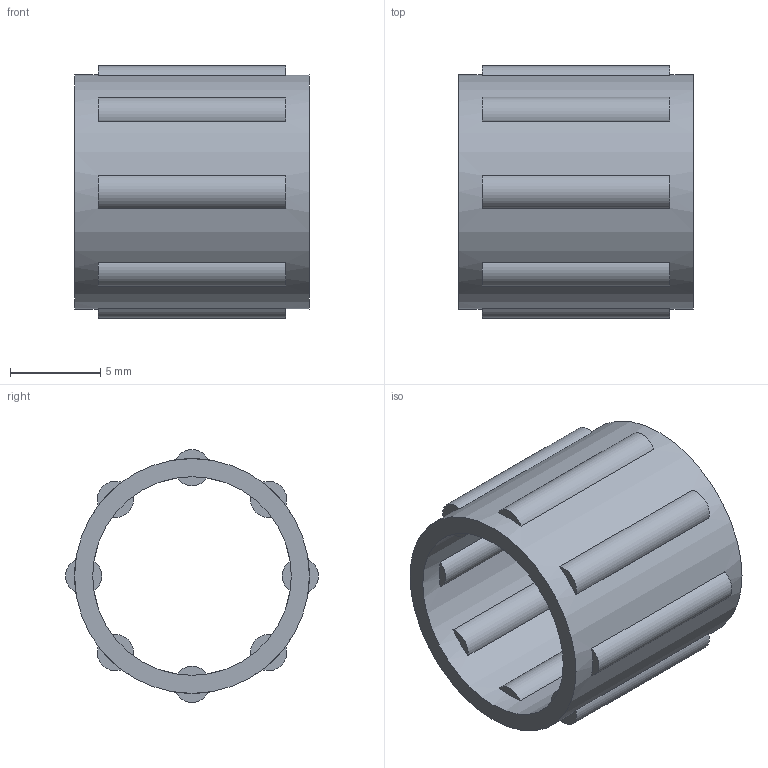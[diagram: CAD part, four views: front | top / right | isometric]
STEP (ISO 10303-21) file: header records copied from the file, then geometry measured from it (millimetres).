
FILE_DESCRIPTION(/* description */ ('-Douille à aiguilles sans fond'),/* implementation_level */ '2;1');
FILE_NAME(/* name */ 'D:\moje\parametrické\Katalóg ihlovích ložísk\01-Ihlové klietky s ihlami\K__x__x__\K10x14x13TN.stp',/* time_stamp */ '2016-10-27T13:50:14+02:00',/* author */ ('OUBALASKO'),/* organization */ ('EMILEMAURIN'),/* preprocessor_version */ 'ST-DEVELOPER v15.6',/* originating_system */ 'Autodesk Inventor 2015',/* authorisation */ '');
FILE_SCHEMA (('AUTOMOTIVE_DESIGN { 1 0 10303 214 3 1 1 }'));
Length unit declared in the file: millimetre
Products named in the file (3): K10x14x13TN-cage; K10x14x13TN-needle; K10x14x13TN
Assembly tree (9 placements, depth 2):
  K10x14x13TN
    K10x14x13TN-cage
    K10x14x13TN-needle  x8
Bounding box: 13 x 14 x 14 mm (x, y, z)
Volume: 592.2 mm3; surface area: 1545.8 mm2
Topology: 9 solids, 9 shells, 60 faces, 132 edges, 88 vertices
Faces by surface type: plane 34, cylinder 26
Full cylindrical faces by diameter (mm): 2 x8, 11 x1, 13 x1
Entity records: 1450 total; most frequent: DIRECTION 274, CARTESIAN_POINT 223, ORIENTED_EDGE 204, AXIS2_PLACEMENT_3D 121, EDGE_CURVE 102, CIRCLE 70, VERTEX_POINT 70, EDGE_LOOP 60
